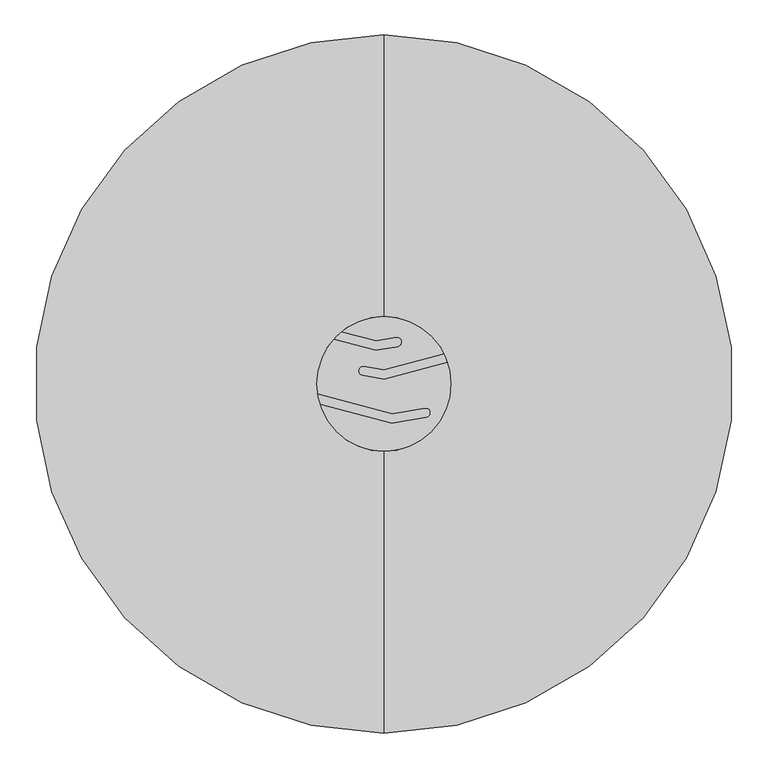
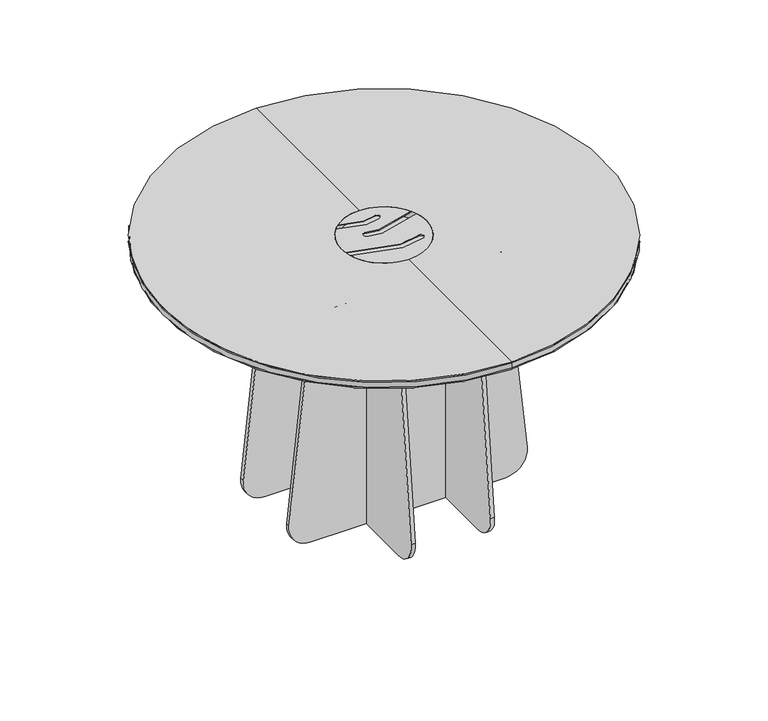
"""IFC4 building model written with IfcOpenShell, lengths in millimetres: furniture geometry, Lundbergs Möbler - Funghi - Table - Round - Ø150 - H90 : Lundbergs Möbler - Funghi - Table - Round - Ø150 - H90."""

from ifc_helpers import new_model, si_unit, point, frame, frame_2d, origin, origin_2d, place, context, project, spatial, polyline, circle_curve, ellipse_curve, trimmed, segment, composite_curve, outline, extrude, source, transform, mapped, element, save
from ifc_brep_helpers import plane_surface, cylinder_surface, revolved_surface, advanced_brep


def furniture_d80e04c3(model_context):
    return source(origin(), model_context, "Body", "SolidModel", [
        extrude(outline(composite_curve([segment(trimmed(circle_curve(frame_2d((868.3873965, 196.2845895)), 8.5), [point((859.8873965, 196.2845895))], [point((868.3873965, 204.7845895))], False, "CARTESIAN"), True, "CONTINUOUS"), segment(polyline([(868.3873965, 204.7845895), (870.000378, 204.7845895), (870.000378, -204.7845895), (868.3873965, -204.7845895)]), True, "CONTINUOUS"), segment(trimmed(circle_curve(frame_2d((868.3873965, -196.2845895)), 8.5), [point((868.3873965, -204.7845895))], [point((859.8873965, -196.2845895))], False, "CARTESIAN"), True, "CONTINUOUS"), segment(polyline([(859.8873965, -196.2845895), (859.8873965, 196.2845895)]), True, "CONTINUOUS")], self_intersect=False)), frame((0.0, 242.5896085, 0.0), z_axis=(0.0, 1.0, 0.0), x_axis=(0.0, 0.0, 1.0)), (0.0, 0.0, 1.0), 40.0000216),
        extrude(outline(composite_curve([segment(trimmed(circle_curve(frame_2d((-196.2845895, 868.3873965)), 8.5), [point((-196.2845895, 859.8873965))], [point((-204.7845895, 868.3873965))], False, "CARTESIAN"), True, "CONTINUOUS"), segment(polyline([(-204.7845895, 868.3873965), (-204.7845895, 870.000378), (204.7845895, 870.000378), (204.7845895, 868.3873965)]), True, "CONTINUOUS"), segment(trimmed(circle_curve(frame_2d((196.2845895, 868.3873965)), 8.5), [point((204.7845895, 868.3873965))], [point((196.2845895, 859.8873965))], False, "CARTESIAN"), True, "CONTINUOUS"), segment(polyline([(196.2845895, 859.8873965), (-196.2845895, 859.8873965)]), True, "CONTINUOUS")], self_intersect=False)), frame((242.5896085, 0.0, 0.0), z_axis=(1.0, 0.0, 0.0), x_axis=(0.0, 1.0, 0.0)), (0.0, 0.0, 1.0), 40.0000216),
        extrude(outline(composite_curve([segment(trimmed(circle_curve(frame_2d((-196.2845895, 868.3873965)), 8.5), [point((-196.2845895, 859.8873965))], [point((-204.7845895, 868.3873965))], False, "CARTESIAN"), True, "CONTINUOUS"), segment(polyline([(-204.7845895, 868.3873965), (-204.7845895, 870.000378), (204.7845895, 870.000378), (204.7845895, 868.3873965)]), True, "CONTINUOUS"), segment(trimmed(circle_curve(frame_2d((196.2845895, 868.3873965)), 8.5), [point((204.7845895, 868.3873965))], [point((196.2845895, 859.8873965))], False, "CARTESIAN"), True, "CONTINUOUS"), segment(polyline([(196.2845895, 859.8873965), (-196.2845895, 859.8873965)]), True, "CONTINUOUS")], self_intersect=False)), frame((-282.5896301, 0.0, 0.0), z_axis=(1.0, 0.0, 0.0), x_axis=(0.0, 1.0, 0.0)), (0.0, 0.0, 1.0), 40.0000216),
        extrude(outline(composite_curve([segment(trimmed(circle_curve(frame_2d((868.3873965, 196.2845895)), 8.5), [point((859.8873965, 196.2845895))], [point((868.3873965, 204.7845895))], False, "CARTESIAN"), True, "CONTINUOUS"), segment(polyline([(868.3873965, 204.7845895), (870.000378, 204.7845895), (870.000378, -204.7845895), (868.3873965, -204.7845895)]), True, "CONTINUOUS"), segment(trimmed(circle_curve(frame_2d((868.3873965, -196.2845895)), 8.5), [point((868.3873965, -204.7845895))], [point((859.8873965, -196.2845895))], False, "CARTESIAN"), True, "CONTINUOUS"), segment(polyline([(859.8873965, -196.2845895), (859.8873965, 196.2845895)]), True, "CONTINUOUS")], self_intersect=False)), frame((0.0, -282.5896301, 0.0), z_axis=(0.0, 1.0, 0.0), x_axis=(0.0, 0.0, 1.0)), (0.0, 0.0, 1.0), 40.0000216),
        advanced_brep(
        [(-145.0, 0.0, 872.6632789), (145.0, 0.0, 872.6632789), (-145.0, 0.0, 900.0), (0.0, -145.0, 900.0), (145.0, 0.0, 900.0), (0.0, 145.0, 900.0), (0.0, -750.0, 877.5331539), (0.0, 750.0, 877.5331539), (0.0, 742.5, 870.0331539), (0.0, -742.5, 870.0331539), (0.0, -750.0, 895.0331674), (0.0, 750.0, 895.0331674), (0.0, -750.0, 900.0), (0.0, 750.0, 900.0), (0.0, 0.0, 870.0331539)],
        [
            (0, 1, circle_curve(frame((0.0, 0.0, 872.6632789), z_axis=(0.0, 0.0, 1.0), x_axis=(1.0, 0.0, 0.0)), 145.0)),
            (1, 0, circle_curve(frame((0.0, 0.0, 872.6632789), z_axis=(0.0, 0.0, 1.0), x_axis=(1.0, 0.0, 0.0)), 145.0)),
            (0, 2),
            (2, 3, circle_curve(frame((0.0, 0.0, 900.0), z_axis=(0.0, 0.0, 1.0), x_axis=(1.0, 0.0, 0.0)), 145.0)),
            (3, 4, circle_curve(frame((0.0, 0.0, 900.0), z_axis=(0.0, 0.0, 1.0), x_axis=(1.0, 0.0, 0.0)), 145.0)),
            (4, 1),
            (4, 5, circle_curve(frame((0.0, 0.0, 900.0), z_axis=(0.0, 0.0, 1.0), x_axis=(1.0, 0.0, 0.0)), 145.0)),
            (5, 2, circle_curve(frame((0.0, 0.0, 900.0), z_axis=(0.0, 0.0, 1.0), x_axis=(1.0, 0.0, 0.0)), 145.0)),
            (6, 7, circle_curve(frame((0.0, 0.0, 877.5331539), z_axis=(0.0, 0.0, -1.0), x_axis=(0.0, 1.0, 0.0)), 750.0)),
            (7, 8, circle_curve(frame((0.0, 742.5, 877.5331539), z_axis=(-1.0, 0.0, 0.0), x_axis=(0.0, -1.0, 0.0)), 7.5)),
            (8, 9, circle_curve(frame((0.0, 0.0, 870.0331539), z_axis=(0.0, 0.0, 1.0), x_axis=(0.0, 1.0, 0.0)), 742.5)),
            (9, 6, circle_curve(frame((0.0, -742.5, 877.5331539), z_axis=(-1.0, 0.0, 0.0), x_axis=(0.0, 1.0, 0.0)), 7.5)),
            (7, 6, circle_curve(frame((0.0, 0.0, 877.5331539), z_axis=(0.0, 0.0, -1.0), x_axis=(0.0, 1.0, 0.0)), 750.0)),
            (9, 8, circle_curve(frame((0.0, 0.0, 870.0331539), z_axis=(0.0, 0.0, 1.0), x_axis=(0.0, 1.0, 0.0)), 742.5)),
            (6, 10),
            (10, 11, circle_curve(frame((0.0, 0.0, 895.0331674), z_axis=(0.0, 0.0, -1.0), x_axis=(0.0, 1.0, 0.0)), 750.0)),
            (11, 7),
            (11, 10, circle_curve(frame((0.0, 0.0, 895.0331674), z_axis=(0.0, 0.0, -1.0), x_axis=(0.0, 1.0, 0.0)), 750.0)),
            (10, 12),
            (12, 13, circle_curve(frame((0.0, 0.0, 900.0), z_axis=(0.0, 0.0, -1.0), x_axis=(0.0, 1.0, 0.0)), 750.0)),
            (13, 11),
            (13, 12, circle_curve(frame((0.0, 0.0, 900.0), z_axis=(0.0, 0.0, -1.0), x_axis=(0.0, 1.0, 0.0)), 750.0)),
            (12, 3),
            (5, 13),
            (8, 14),
            (14, 9),
        ],
        [
            plane_surface(frame((145.0, 0.0, 872.6632789), z_axis=(0.0, 0.0, 1.0), x_axis=(0.0, -1.0, 0.0))),
            revolved_surface(polyline([(145.0, 0.0, 900.0), (145.0, 0.0, 872.6632789)]), (0.0, 0.0, 872.6632789), (0.0, 0.0, 1.0)),
            revolved_surface(trimmed(ellipse_curve(frame((0.0, 742.5, 877.5331539), z_axis=(1.0, 0.0, 0.0), x_axis=(0.0, -1.0, 0.0)), 7.5, 7.5), [point((0.0, 742.5, 870.0331539))], [point((0.0, 750.0, 877.5331539))], True, "CARTESIAN"), (0.0, 0.0, 1150.0), (0.0, 0.0, 1.0)),
            cylinder_surface(frame((0.0, 0.0, 1150.0), z_axis=(0.0, 0.0, 1.0), x_axis=(0.0, 1.0, 0.0)), 750.0),
            plane_surface(frame((0.0, 0.0, 900.0), z_axis=(0.0, 0.0, 1.0), x_axis=(0.0, 1.0, 0.0))),
            plane_surface(frame((0.0, 0.0, 870.0331539), z_axis=(0.0, 0.0, -1.0), x_axis=(0.0, 1.0, 0.0))),
        ],
        [
            (0, [[1, 2]]),
            (1, [[-1, 3, 4, 5, 6]]),
            (1, [[-2, -6, 7, 8, -3]]),
            (2, [[9, 10, 11, 12]]),
            (2, [[-10, 13, -12, 14]]),
            (3, [[-9, 15, 16, 17]]),
            (3, [[-13, -17, 18, -15]]),
            (3, [[-16, 19, 20, 21]]),
            (3, [[-18, -21, 22, -19]]),
            (4, [[-20, 23, -4, -8, 24]]),
            (4, [[-22, -24, -7, -5, -23]]),
            (5, [[-11, 25, 26]]),
            (5, [[-14, -26, -25]]),
        ],
    ),
        extrude(outline(composite_curve([segment(trimmed(circle_curve(origin_2d(), 145.0), [point((-143.4635973, -21.0522268))], [point((-108.3690688, 96.338699))], False, "CARTESIAN"), True, "CONTINUOUS"), segment(polyline([(-108.3690688, 96.338699), (-17.217028, 71.9145833), (30.2144383, 80.2780306)]), True, "CONTINUOUS"), segment(trimmed(circle_curve(frame_2d((28.4779566, 90.1261081)), 10.0), [point((30.2144383, 80.2780306))], [point((26.7414748, 99.9741856))], True, "CARTESIAN"), True, "CONTINUOUS"), segment(polyline([(26.7414748, 99.9741856), (-16.3234591, 92.3806759), (-91.463255, 112.5143235)]), True, "CONTINUOUS"), segment(trimmed(circle_curve(origin_2d(), 145.0), [point((-91.463255, 112.5143235))], [point((129.5098534, 65.2088788))], False, "CARTESIAN"), True, "CONTINUOUS"), segment(polyline([(129.5098534, 65.2088788), (0.0, 30.5068182), (-43.0649339, 38.1003279)]), True, "CONTINUOUS"), segment(trimmed(circle_curve(frame_2d((-44.8014157, 28.2522504)), 10.0), [point((-43.0649339, 38.1003279))], [point((-46.5378975, 18.4041729))], True, "CARTESIAN"), True, "CONTINUOUS"), segment(polyline([(-46.5378975, 18.4041729), (0.8935689, 10.0407256), (137.3100639, 46.5934153)]), True, "CONTINUOUS"), segment(trimmed(circle_curve(origin_2d(), 145.0), [point((137.3100639, 46.5934153))], [point((-138.4456235, -43.1023124))], False, "CARTESIAN"), True, "CONTINUOUS"), segment(polyline([(-138.4456235, -43.1023124), (16.9662998, -84.7448118), (91.5378975, -71.5958271)]), True, "CONTINUOUS"), segment(trimmed(circle_curve(frame_2d((89.8014157, -61.7477496)), 10.0), [point((91.5378975, -71.5958271))], [point((88.0649339, -51.8996721))], True, "CARTESIAN"), True, "CONTINUOUS"), segment(polyline([(88.0649339, -51.8996721), (17.8598687, -64.2787192), (-143.4635973, -21.0522268)]), True, "CONTINUOUS")], self_intersect=False)), frame((0.0, 0.0, 897.525898), z_axis=(0.0, 0.0, 1.0), x_axis=(1.0, 0.0, 0.0)), (0.0, 0.0, 1.0), 2.474102),
        extrude(outline(composite_curve([segment(trimmed(circle_curve(frame_2d((328.9885604, 75.0)), 75.0), [point((403.5717494, 82.8960696))], [point((328.9885604, 0.0))], False, "CARTESIAN"), True, "CONTINUOUS"), segment(polyline([(328.9885604, 0.0), (-328.9885604, 0.0)]), True, "CONTINUOUS"), segment(trimmed(circle_curve(frame_2d((-328.9885604, 75.0)), 75.0), [point((-328.9885604, 0.0))], [point((-403.5717494, 82.8960696))], False, "CARTESIAN"), True, "CONTINUOUS"), segment(polyline([(-403.5717494, 82.8960696), (-320.2415717, 870.000378), (320.2415717, 870.000378), (403.5717494, 82.8960696)]), True, "CONTINUOUS")], self_intersect=False)), frame((127.6465142, 0.0, 0.0), z_axis=(1.0, 0.0, 0.0), x_axis=(0.0, 1.0, 0.0)), (0.0, 0.0, 1.0), 13.4999997),
        extrude(outline(composite_curve([segment(trimmed(circle_curve(frame_2d((328.9885604, 75.0)), 75.0), [point((403.5717494, 82.8960696))], [point((328.9885604, 0.0))], False, "CARTESIAN"), True, "CONTINUOUS"), segment(polyline([(328.9885604, 0.0), (-328.9885604, 0.0)]), True, "CONTINUOUS"), segment(trimmed(circle_curve(frame_2d((-328.9885604, 75.0)), 75.0), [point((-328.9885604, 0.0))], [point((-403.5717494, 82.8960696))], False, "CARTESIAN"), True, "CONTINUOUS"), segment(polyline([(-403.5717494, 82.8960696), (-320.2415717, 870.000378), (320.2415717, 870.000378), (403.5717494, 82.8960696)]), True, "CONTINUOUS")], self_intersect=False)), frame((-141.1465138, 0.0, 0.0), z_axis=(1.0, 0.0, 0.0), x_axis=(0.0, 1.0, 0.0)), (0.0, 0.0, 1.0), 13.4999997),
        extrude(outline(composite_curve([segment(trimmed(circle_curve(frame_2d((75.0, -328.9885604)), 75.0), [point((82.8960696, -403.5717494))], [point((0.0, -328.9885604))], False, "CARTESIAN"), True, "CONTINUOUS"), segment(polyline([(0.0, -328.9885604), (0.0, 328.9885604)]), True, "CONTINUOUS"), segment(trimmed(circle_curve(frame_2d((75.0, 328.9885604)), 75.0), [point((0.0, 328.9885604))], [point((82.8960696, 403.5717494))], False, "CARTESIAN"), True, "CONTINUOUS"), segment(polyline([(82.8960696, 403.5717494), (870.000378, 320.2415717), (870.000378, -320.2415717), (82.8960696, -403.5717494)]), True, "CONTINUOUS")], self_intersect=False)), frame((0.0, 127.6465142, 0.0), z_axis=(0.0, 1.0, 0.0), x_axis=(0.0, 0.0, 1.0)), (0.0, 0.0, 1.0), 13.4999997),
        extrude(outline(composite_curve([segment(trimmed(circle_curve(frame_2d((75.0, -328.9885604)), 75.0), [point((82.8960696, -403.5717494))], [point((0.0, -328.9885604))], False, "CARTESIAN"), True, "CONTINUOUS"), segment(polyline([(0.0, -328.9885604), (0.0, 328.9885604)]), True, "CONTINUOUS"), segment(trimmed(circle_curve(frame_2d((75.0, 328.9885604)), 75.0), [point((0.0, 328.9885604))], [point((82.8960696, 403.5717494))], False, "CARTESIAN"), True, "CONTINUOUS"), segment(polyline([(82.8960696, 403.5717494), (870.000378, 320.2415717), (870.000378, -320.2415717), (82.8960696, -403.5717494)]), True, "CONTINUOUS")], self_intersect=False)), frame((0.0, -141.1465138, 0.0), z_axis=(0.0, 1.0, 0.0), x_axis=(0.0, 0.0, 1.0)), (0.0, 0.0, 1.0), 13.4999997),
    ])


if __name__ == "__main__":
    model = new_model("IFC4")
    model_context = context("Model", 3, world=origin())
    ifc_project = project(units=[si_unit("LENGTHUNIT", "METRE", prefix="MILLI")], contexts=[model_context])
    site = spatial("IfcSite", under=ifc_project)
    building = spatial("IfcBuilding", under=site)
    placement = place(None, origin())
    furniture_shape = furniture_d80e04c3(model_context)
    element("IfcFurniture", 1, ObjectType="Lundbergs Möbler - Funghi - Table - Round - Ø150 - H90 : Lundbergs Möbler - Funghi - Table - Round - Ø150 - H90", at=placement, inside=building, context=model_context, shape_type="MappedRepresentation", body=[
        mapped(furniture_shape, transform((0.0, 0.0, 0.0), x_axis=(1.0, 0.0, 0.0), y_axis=(0.0, 1.0, 0.0), z_axis=(0.0, 0.0, 1.0))),
    ])
    save(model, "model.ifc")
